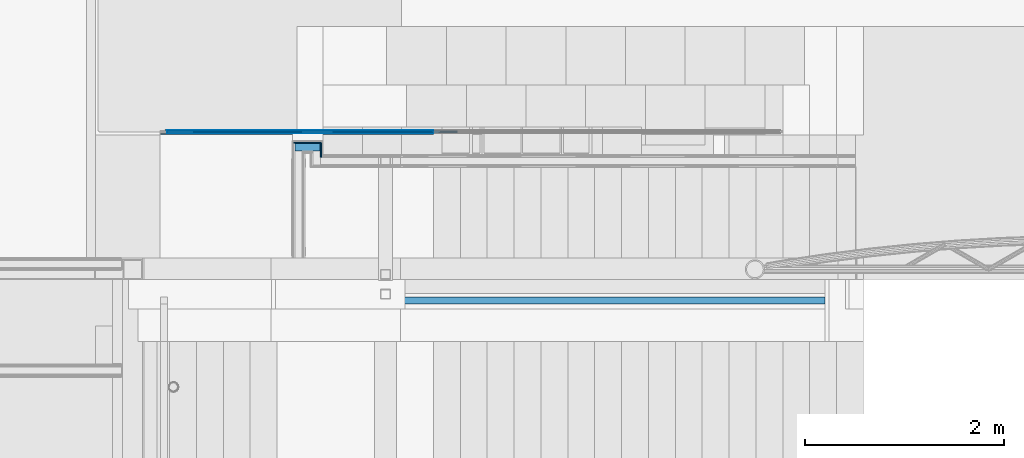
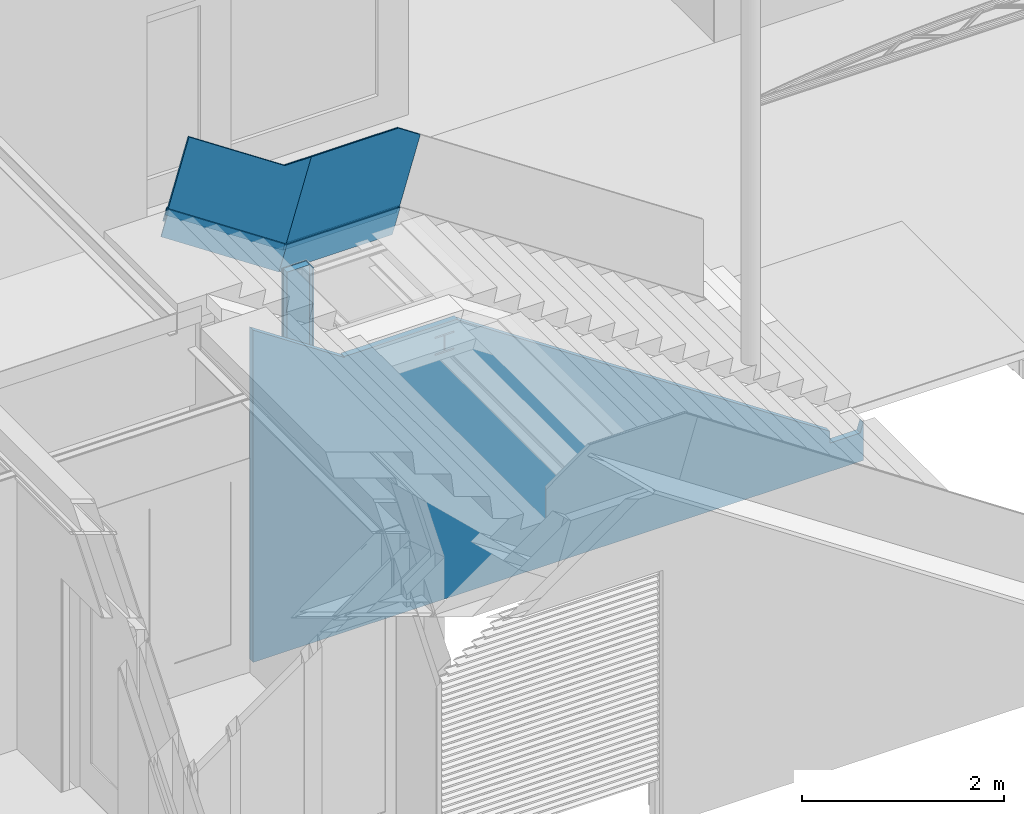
# One storey, part 50 of 165: 12 building element parts, 5 elements without a shape of their own.
"""IFC2X3 building model written with IfcOpenShell, lengths in millimetres."""

from ifc_helpers import new_model, entity, si_unit, converted_unit, derived_unit, money_unit, direction, frame, origin_with_axes, place, context, subcontext, project, spatial, faceted_brep, material, type_object, element, aggregate, save


model = new_model("IFC2X3")

# Units and contexts
model_context = context("Model", 3, precision=0.01, world=origin_with_axes(), true_north=direction((0.0, 1.0)))
body_context = subcontext(model_context, "Body", "Model", "MODEL_VIEW")
ifc_project = project(units=[si_unit("LENGTHUNIT", "METRE", prefix="MILLI"), si_unit("AREAUNIT", "SQUARE_METRE"), si_unit("VOLUMEUNIT", "CUBIC_METRE"), converted_unit("PLANEANGLEUNIT", "DEGREE", entity("IfcPlaneAngleMeasure", 0.0174532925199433), si_unit("PLANEANGLEUNIT", "RADIAN"), dimensions=[0, 0, 0, 0, 0, 0, 0]), money_unit("EUR"), converted_unit("TIMEUNIT", "Year", entity("IfcTimeMeasure", 31556926.0), si_unit("TIMEUNIT", "SECOND"), dimensions=[0, 0, 1, 0, 0, 0, 0]), si_unit("MASSUNIT", "GRAM", prefix="KILO"), si_unit("THERMODYNAMICTEMPERATUREUNIT", "DEGREE_CELSIUS"), si_unit("LUMINOUSINTENSITYUNIT", "LUMEN"), si_unit("ENERGYUNIT", "JOULE", prefix="MEGA"), derived_unit("THERMALCONDUCTANCEUNIT", [(si_unit("POWERUNIT", "WATT"), 1), (si_unit("LENGTHUNIT", "METRE"), -1), (si_unit("THERMODYNAMICTEMPERATUREUNIT", "KELVIN"), -1)]), derived_unit("SPECIFICHEATCAPACITYUNIT", [(si_unit("ENERGYUNIT", "JOULE"), 1), (si_unit("MASSUNIT", "GRAM", prefix="KILO"), -1), (si_unit("THERMODYNAMICTEMPERATUREUNIT", "KELVIN"), -1)]), derived_unit("MASSDENSITYUNIT", [(si_unit("MASSUNIT", "GRAM", prefix="KILO"), 1), (si_unit("VOLUMEUNIT", "CUBIC_METRE"), -1)])], contexts=[model_context])

# Site, building, storey
site_placement = place(None, origin_with_axes())
site = spatial("IfcSite", under=ifc_project, at=site_placement, Name="Site", CompositionType="ELEMENT")
building_placement = place(site_placement, origin_with_axes())
building = spatial("IfcBuilding", under=site, at=building_placement, Name="Naam gebouw", CompositionType="ELEMENT")
storey_placement = place(building_placement, origin_with_axes())
storey = spatial("IfcBuildingStorey", under=building, at=storey_placement, Name="Begane grond", CompositionType="ELEMENT", Elevation=0.0)

# Wall, building element part
wall_type = type_object("IfcWallType", Name="21 Buitenwand spouwmuur kalkzandsteen 464", PredefinedType="NOTDEFINED")
wall_placement = place(storey_placement, frame((11550.0, 4479.999999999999, -485.0), z_axis=(0.0, 0.0, 1.0), x_axis=(1.0, 0.0, 0.0)))
wall = element("IfcWall", 1, at=wall_placement, inside=storey, type_object=wall_type, Name="21_Wand-x")
ifc_material_1 = material(Name="Steen - Kalkzandsteen")
building_element_part_1_placement = place(wall_placement, origin_with_axes())
building_element_part_1 = element("IfcBuildingElementPart", 2, at=building_element_part_1_placement, material=ifc_material_1, Name="Steen - Kalkzandsteen", context=body_context, shape_type="Brep", body=[
    faceted_brep([(6855.907025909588, -179.9999999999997, 344.9999998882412), (7203.666809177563, -179.9999999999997, 344.9999998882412), (7239.999885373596, -179.9999999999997, 465.0000000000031), (7240.000087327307, -179.9999999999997, 0.0), (250.0, -179.9999999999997, 0.0), (250.0, -179.9999999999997, 4024.691548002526), (1292.472818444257, -179.9999999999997, 3329.709672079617), (1295.501476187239, -179.9999999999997, 3339.712649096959), (2592.472396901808, -179.9999999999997, 3339.712922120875), (2592.472396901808, -179.9999999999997, 3329.709769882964), (6855.907025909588, -179.9999999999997, 487.4200296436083), (2389.999999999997, -179.9999999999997, 35.0000000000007), (2395.999999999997, -179.9999999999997, 35.0000000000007), (2395.999999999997, -179.9999999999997, 2990.0), (2483.999999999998, -179.9999999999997, 2990.0), (2483.999999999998, -179.9999999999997, 35.0000000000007), (2489.999999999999, -179.9999999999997, 35.0000000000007), (2489.999999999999, -179.9999999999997, 2990.0), (2549.999999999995, -179.9999999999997, 2990.0), (2549.999999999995, -179.9999999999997, 3006.0), (2444.749999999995, -179.9999999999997, 3006.0), (2444.749999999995, -179.9999999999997, 3194.0), (2549.999999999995, -179.9999999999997, 3194.0), (2549.999999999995, -179.9999999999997, 3210.0), (2329.999999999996, -179.9999999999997, 3210.0), (2329.999999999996, -179.9999999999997, 3194.0), (2435.249999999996, -179.9999999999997, 3194.0), (2435.249999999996, -179.9999999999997, 3006.0), (2329.999999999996, -179.9999999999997, 3006.0), (2329.999999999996, -179.9999999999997, 2990.0), (2389.999999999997, -179.9999999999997, 2990.0), (6855.907025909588, -249.9999999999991, 344.9999998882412), (7203.666809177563, -249.9999999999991, 344.9999998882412), (7239.999885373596, -249.9999999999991, 465.0000000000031), (7240.000087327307, -249.9999999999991, 0.0), (250.0, -250.0, 0.0), (250.0, -250.0, 4024.691548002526), (1292.472818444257, -249.9999999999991, 3329.709672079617), (1295.501476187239, -249.9999999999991, 3339.712649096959), (2592.472396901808, -249.9999999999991, 3339.712922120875), (2592.472396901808, -249.9999999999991, 3329.709769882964), (6855.907025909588, -249.9999999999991, 487.4200296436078), (2389.999999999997, -200.000000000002, 35.0000000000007), (2489.999999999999, -200.000000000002, 35.0000000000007), (2483.999999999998, -194.0000000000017, 35.0000000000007), (2395.999999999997, -194.0000000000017, 35.0000000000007), (2395.999999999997, -194.0000000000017, 2990.0), (2483.999999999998, -194.0000000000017, 2990.0), (2489.999999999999, -200.000000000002, 2990.0), (2549.999999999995, -250.0, 2990.0), (2389.999999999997, -200.000000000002, 2990.0), (2329.999999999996, -250.0, 2990.0), (2549.999999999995, -250.0, 3006.0), (2444.749999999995, -250.0, 3006.0), (2444.749999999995, -250.0, 3194.0), (2549.999999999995, -250.0, 3194.0), (2549.999999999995, -250.0, 3210.0), (2329.999999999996, -250.0, 3210.0), (2329.999999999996, -250.0, 3194.0), (2435.249999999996, -250.0, 3194.0), (2435.249999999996, -250.0, 3006.0), (2329.999999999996, -250.0, 3006.0)], [[[0, 1, 2, 3, 4, 5, 6, 7, 8, 9, 10], [11, 12, 13, 14, 15, 16, 17, 18, 19, 20, 21, 22, 23, 24, 25, 26, 27, 28, 29, 30]], [[1, 0, 31, 32]], [[33, 2, 1, 32]], [[2, 33, 34, 3]], [[34, 35, 4, 3]], [[35, 36, 5, 4]], [[37, 6, 5, 36]], [[37, 38, 7, 6]], [[8, 7, 38, 39]], [[40, 9, 8, 39]], [[41, 10, 9, 40]], [[0, 10, 41, 31]], [[12, 11, 42, 43, 16, 15, 44, 45]], [[46, 13, 12, 45]], [[47, 14, 13, 46]], [[15, 14, 47, 44]], [[48, 17, 16, 43]], [[49, 18, 17, 48, 50, 30, 29, 51]], [[52, 19, 18, 49]], [[53, 20, 19, 52]], [[54, 21, 20, 53]], [[55, 22, 21, 54]], [[56, 23, 22, 55]], [[57, 24, 23, 56]], [[58, 25, 24, 57]], [[59, 26, 25, 58]], [[60, 27, 26, 59]], [[61, 28, 27, 60]], [[51, 29, 28, 61]], [[11, 30, 50, 42]], [[31, 41, 40, 39, 38, 37, 36, 35, 34, 33, 32], [49, 51, 61, 60, 59, 58, 57, 56, 55, 54, 53, 52]], [[50, 48, 43, 42]], [[47, 46, 45, 44]]]),
])
aggregate(wall, [building_element_part_1])

# Beam, building element parts
beam_type = type_object("IfcBeamType", Name="34 Glas balustrade binnen 50 x 1800", PredefinedType="BEAM")
beam_1_placement = place(storey_placement, frame((14470.00001687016, 5930.000274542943, 3060.0), z_axis=(0.0, 0.0, 1.0), x_axis=(1.788548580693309e-07, 0.999999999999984, 0.0)))
beam_1 = element("IfcBeam", 3, at=beam_1_placement, inside=storey, type_object=beam_type, Name="_Regenwaterafvoer-x", ObjectType="BEAM")
ifc_material_2 = material(Name="Glas")
building_element_part_2_placement = place(beam_1_placement, origin_with_axes())
building_element_part_2 = element("IfcBuildingElementPart", 4, at=building_element_part_2_placement, material=ifc_material_2, Name="Glas", context=body_context, shape_type="Brep", body=[
    faceted_brep([(39.99999585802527, 1011.16187693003, 953.9675754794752), (39.99999585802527, 13.93735067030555, 953.9680044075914), (39.99999585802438, -237.9871823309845, 786.0182834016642), (39.99999585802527, 3.990747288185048e-06, 1.665824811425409e-06), (39.99999585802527, 1300.000020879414, 1.665824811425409e-06), (38.25935055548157, 1011.40759643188, 953.156018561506), (38.25952891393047, 14.18308096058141, 953.1564114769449), (38.25958702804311, -237.7414600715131, 785.2067174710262), (21.74001410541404, -237.7414617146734, 785.206718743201), (19.99999211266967, -237.9871297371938, 786.0181046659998), (19.99999211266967, 2.467734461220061e-06, 1.665824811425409e-06), (19.99999211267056, 24.29169225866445, -80.22999964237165), (39.99999585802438, 24.29169378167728, -80.22999964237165), (34.19340399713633, -237.4115772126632, 784.1171873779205), (29.99980048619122, -237.3004914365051, 783.7502949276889), (25.80619701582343, -237.411578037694, 784.11718799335), (39.99999585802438, 1324.291710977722, -80.22999964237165), (19.99999211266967, 1324.291709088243, -80.22999964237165), (19.99999211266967, 1300.000018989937, 1.665824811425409e-06), (19.99999211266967, 1011.161894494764, 953.9675112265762), (21.73977763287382, 1011.40747315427, 953.1564205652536), (25.8059605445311, 1011.737356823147, 952.0668901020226), (29.99956401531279, 1011.848480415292, 951.6998751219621), (34.19316752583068, 1011.737434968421, 952.066634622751), (34.19334588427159, 14.51296350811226, 952.0668811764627), (19.99999211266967, 13.93741810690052, 953.9677704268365), (21.73995599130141, 14.18307800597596, 953.1564118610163), (29.99974237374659, 14.62404894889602, 951.6999884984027), (25.80613890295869, 14.51296200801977, 952.0668813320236)], [[[0, 1, 2, 3, 4]], [[1, 0, 5, 6]], [[7, 2, 1, 6]], [[8, 9, 10, 11, 12, 3, 2, 7, 13, 14, 15]], [[12, 16, 4, 3]], [[5, 0, 4, 16, 17, 18, 19, 20, 21, 22, 23]], [[5, 23, 24, 6]], [[13, 7, 6, 24]], [[25, 9, 8, 26]], [[25, 19, 18, 10, 9]], [[10, 18, 17, 11]], [[11, 17, 16, 12]], [[14, 13, 24, 27]], [[15, 14, 27, 28]], [[8, 15, 28, 26]], [[19, 25, 26, 20]], [[21, 20, 26, 28]], [[22, 21, 28, 27]], [[23, 22, 27, 24]]]),
])
building_element_part_3_placement = place(beam_1_placement, origin_with_axes())
building_element_part_3 = element("IfcBuildingElementPart", 5, at=building_element_part_3_placement, material=ifc_material_2, Name="Glas", context=body_context, shape_type="Brep", body=[
    faceted_brep([(39.99999940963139, 4.495118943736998e-06, 0.0), (39.99999940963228, 1300.000021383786, 0.0), (39.99999940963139, 1324.291710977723, -80.22999964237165), (39.99999940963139, 24.29169378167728, -80.22999964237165), (44.99800116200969, 4.875719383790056e-06, 0.0), (44.99800116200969, 1300.000021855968, 0.0), (44.9980011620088, 1324.291711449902, -80.22999964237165), (44.9980011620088, 24.2916941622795, -80.22999964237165)], [[[0, 1, 2, 3]], [[4, 5, 1, 0]], [[2, 1, 5, 6]], [[3, 2, 6, 7]], [[4, 0, 3, 7]], [[7, 6, 5, 4]]]),
])

beam_2_placement = place(storey_placement, frame((12900.00003584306, 5930.000555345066, 3239.99997959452), z_axis=(0.0, 0.0, 1.0), x_axis=(-2.916255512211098e-08, 0.9999999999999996, 0.0)))
beam_2 = element("IfcBeam", 6, at=beam_2_placement, inside=storey, type_object=beam_type, Name="_Regenwaterafvoer-x", ObjectType="BEAM")
building_element_part_4_placement = place(beam_2_placement, origin_with_axes())
building_element_part_4 = element("IfcBuildingElementPart", 7, at=building_element_part_4_placement, material=ifc_material_2, Name="Glas", context=body_context, shape_type="Brep", body=[
    faceted_brep([(39.99999585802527, 842.0128184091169, 1506.018320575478), (39.99999585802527, -256.0627375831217, 773.967543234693), (39.99999585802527, -558.8381288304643, 773.9676500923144), (39.99999585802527, -269.9999680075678, -179.9999794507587), (39.99999585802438, 1080.000013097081, 720.00002185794), (38.25926922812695, 842.2585852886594, 1505.20660781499), (38.25924318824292, -255.8169665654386, 773.1559196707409), (38.25923435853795, -558.5923925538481, 773.1560389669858), (21.73966143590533, -558.5925123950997, 773.1564409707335), (19.99999211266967, -558.8380742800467, 773.9674774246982), (19.99999211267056, -269.9999661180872, -179.9999781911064), (19.99999211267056, -245.7082760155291, -260.2299795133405), (39.99999585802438, -245.7082779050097, -260.2299807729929), (34.19305139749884, -558.2625531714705, 772.0666550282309), (29.99944791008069, -558.1515068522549, 771.6998955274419), (25.80584441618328, -558.2626295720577, 772.0669105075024), (39.99999585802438, 1104.291703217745, 639.7700205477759), (19.99999211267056, 1104.291703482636, 639.7700207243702), (19.99999211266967, 1080.000013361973, 720.0000220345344), (19.99999211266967, 842.0128871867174, 1506.018094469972), (21.73969630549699, 842.2585413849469, 1505.206753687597), (25.8058792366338, 842.5884246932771, 1504.11722293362), (29.99948271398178, 842.6995242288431, 1503.750285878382), (34.1930862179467, 842.5884525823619, 1504.117130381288), (34.1930602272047, -255.4870831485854, 772.0665801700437), (19.99999211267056, -256.0625852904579, 773.9676688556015), (21.73967026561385, -255.8169660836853, 773.1564436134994), (29.99945673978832, -255.3759968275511, 771.6998611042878), (25.8058532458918, -255.4870829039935, 772.0669131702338)], [[[0, 1, 2, 3, 4]], [[1, 0, 5, 6]], [[7, 2, 1, 6]], [[8, 9, 10, 11, 12, 3, 2, 7, 13, 14, 15]], [[12, 16, 4, 3]], [[5, 0, 4, 16, 17, 18, 19, 20, 21, 22, 23]], [[5, 23, 24, 6]], [[13, 7, 6, 24]], [[25, 9, 8, 26]], [[25, 19, 18, 10, 9]], [[10, 18, 17, 11]], [[11, 17, 16, 12]], [[14, 13, 24, 27]], [[15, 14, 27, 28]], [[8, 15, 28, 26]], [[19, 25, 26, 20]], [[21, 20, 26, 28]], [[22, 21, 28, 27]], [[23, 22, 27, 24]]]),
])
building_element_part_5_placement = place(beam_2_placement, origin_with_axes())
building_element_part_5 = element("IfcBuildingElementPart", 8, at=building_element_part_5_placement, material=ifc_material_2, Name="Glas", context=body_context, shape_type="Brep", body=[
    faceted_brep([(14.99999940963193, -269.9999651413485, -179.9999795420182), (14.99999940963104, 1080.000013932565, 720.0000204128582), (14.99999940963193, 1104.29170354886, 639.7700207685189), (14.99999940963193, -245.7082755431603, -260.2299791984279), (19.99999940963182, -269.9999656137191, -179.9999798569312), (19.99999940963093, 1080.000013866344, 720.0000203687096), (19.99999940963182, 1104.291703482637, 639.7700207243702), (19.99999940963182, -245.7082760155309, -260.2299795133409)], [[[0, 1, 2, 3]], [[4, 5, 1, 0]], [[2, 1, 5, 6]], [[3, 2, 6, 7]], [[4, 0, 3, 7]], [[7, 6, 5, 4]]]),
])
building_element_part_6_placement = place(beam_2_placement, origin_with_axes())
building_element_part_6 = element("IfcBuildingElementPart", 9, at=building_element_part_6_placement, material=ifc_material_2, Name="Glas", context=body_context, shape_type="Brep", body=[
    faceted_brep([(39.99999940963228, -269.9999675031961, -179.9999811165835), (39.99999940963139, 1080.000013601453, 720.0000201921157), (39.99999940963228, 1104.291703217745, 639.7700205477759), (39.99999940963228, -245.7082779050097, -260.2299807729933), (44.99800116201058, -269.9999679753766, -179.9999814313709), (44.99800116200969, 1080.000013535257, 720.0000201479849), (44.99800116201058, 1104.291703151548, 639.7700205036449), (44.99800116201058, -245.7082783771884, -260.2299810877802)], [[[0, 1, 2, 3]], [[4, 5, 1, 0]], [[2, 1, 5, 6]], [[3, 2, 6, 7]], [[4, 0, 3, 7]], [[7, 6, 5, 4]]]),
])
ifc_material_3 = material(Name="Metaal - Staal C")
building_element_part_7_placement = place(beam_2_placement, origin_with_axes())
building_element_part_7 = element("IfcBuildingElementPart", 10, at=building_element_part_7_placement, material=ifc_material_3, Name="Metaal - Staal C", context=body_context, shape_type="Brep", body=[
    faceted_brep([(54.99800116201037, -269.999968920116, -179.9999820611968), (54.99800116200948, 1080.000013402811, 720.0000200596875), (44.99800116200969, 1080.000013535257, 720.0000201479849), (44.99800116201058, -269.9999679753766, -179.9999814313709), (54.99800116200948, -224.5836227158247, -329.9999820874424), (54.99800116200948, 1125.416359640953, 570.0000200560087), (44.99800116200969, 1125.416359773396, 570.0000201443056), (44.99800116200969, 1117.846968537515, 595.0000207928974), (15.00000000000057, 1117.846968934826, 595.0000210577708), (15.00000000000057, 1170.832706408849, 420.0000204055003), (5.000000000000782, 1170.832706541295, 420.0000204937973), (4.999999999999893, 1080.000014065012, 720.0000205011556), (14.99999999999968, 1080.000013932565, 720.0000204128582), (14.99999940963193, 1104.29170354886, 639.7700207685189), (15.00000000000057, 1105.735943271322, 635.0000210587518), (44.99800116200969, 1105.735942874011, 635.000020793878), (44.99800116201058, 1104.291703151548, 639.7700205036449), (15.00000000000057, 1114.819212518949, 605.0000210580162), (44.99800116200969, 1114.819212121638, 605.0000207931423), (44.99800116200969, 1108.763699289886, 625.000020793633), (15.00000000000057, 1108.763699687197, 625.0000210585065), (44.99800116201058, -245.7082783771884, -260.2299810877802), (44.99800116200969, -244.2640386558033, -264.9999807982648), (15.00000000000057, -244.2640358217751, -264.9999789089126), (14.99999940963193, -245.7082755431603, -260.2299791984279), (15.00000000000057, -269.9999651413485, -179.9999795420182), (5.000000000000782, -269.9999641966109, -179.9999789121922), (4.999999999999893, -179.1672717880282, -479.9999789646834), (15.00000000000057, -179.1672727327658, -479.9999795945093), (15.00000000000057, -232.1530101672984, -304.999978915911), (44.99800116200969, -232.1530130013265, -304.9999808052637), (44.99800116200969, -224.5836217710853, -329.999981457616), (44.99800116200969, -241.2362822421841, -274.9999808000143), (44.99800116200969, -235.1807694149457, -294.9999808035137), (14.99999999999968, -235.1807665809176, -294.9999789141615), (15.00000000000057, -241.236279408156, -274.9999789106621)], [[[0, 1, 2, 3]], [[4, 5, 1, 0]], [[2, 1, 5, 6, 7, 8, 9, 10, 11, 12, 13, 14, 15, 16], [17, 18, 19, 20]], [[3, 2, 16, 21]], [[4, 0, 3, 21, 22, 23, 24, 25, 26, 27, 28, 29, 30, 31], [32, 33, 34, 35]], [[31, 6, 5, 4]], [[30, 7, 6, 31]], [[29, 8, 7, 30]], [[28, 9, 8, 29]], [[27, 10, 9, 28]], [[26, 11, 10, 27]], [[25, 12, 11, 26]], [[24, 13, 12, 25]], [[23, 14, 13, 24]], [[22, 15, 14, 23]], [[21, 16, 15, 22]], [[33, 18, 17, 34]], [[32, 19, 18, 33]], [[35, 20, 19, 32]], [[34, 17, 20, 35]]]),
])
aggregate(beam_2, [building_element_part_4, building_element_part_5, building_element_part_6, building_element_part_7])

# Building element part
building_element_part_8_placement = place(beam_1_placement, origin_with_axes())
building_element_part_8 = element("IfcBuildingElementPart", 11, at=building_element_part_8_placement, material=ifc_material_3, Name="Metaal - Staal C", context=body_context, shape_type="Brep", body=[
    faceted_brep([(54.99800116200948, 5.637225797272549e-06, 0.0), (54.99800116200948, 1300.000022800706, 0.0), (44.99800116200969, 1300.000021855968, 0.0), (44.99800116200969, 4.875719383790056e-06, 0.0), (54.99800116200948, 45.4163512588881, -149.9999999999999), (54.99800116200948, 1345.41636899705, -149.9999999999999), (44.99800116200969, 1345.416368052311, -149.9999999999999), (44.9980011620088, 1337.846976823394, -124.9999993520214), (15.00000000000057, 1337.846973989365, -124.9999993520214), (15.00000000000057, 1390.832711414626, -299.9999999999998), (4.999999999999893, 1390.832710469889, -299.9999999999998), (4.999999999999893, 1300.000018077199, 0.0), (14.99999999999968, 1300.000019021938, 0.0), (14.99999940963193, 1324.291708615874, -80.22999964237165), (14.99999999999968, 1325.735948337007, -84.9999993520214), (44.99800116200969, 1325.735951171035, -84.9999993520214), (44.9980011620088, 1324.291711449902, -80.22999964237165), (14.99999999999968, 1334.819217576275, -114.9999993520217), (44.99800116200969, 1334.819220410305, -114.9999993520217), (44.99800116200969, 1328.763707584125, -94.99999935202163), (15.00000000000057, 1328.763704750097, -94.99999935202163), (44.9980011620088, 24.2916941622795, -80.22999964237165), (44.99800116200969, 25.73593386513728, -84.9999993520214), (14.99999999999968, 25.73593158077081, -84.9999993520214), (14.99999940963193, 24.29169187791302, -80.22999964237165), (15.00000000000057, 2.591352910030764e-06, 0.0), (4.999999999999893, 1.829846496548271e-06, 0.0), (4.999999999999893, 90.8326930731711, -299.9999999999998), (15.00000000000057, 90.83269383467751, -299.9999999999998), (15.00000000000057, 37.84695707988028, -124.9999993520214), (44.9980011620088, 37.84695936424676, -124.9999993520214), (44.99800116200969, 45.41635049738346, -149.9999999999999), (44.9980011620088, 28.76369023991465, -94.99999935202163), (44.99800116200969, 34.81920298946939, -114.9999993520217), (14.99999999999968, 34.81920070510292, -114.9999993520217), (15.00000000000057, 28.76368795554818, -94.99999935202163)], [[[0, 1, 2, 3]], [[4, 5, 1, 0]], [[2, 1, 5, 6, 7, 8, 9, 10, 11, 12, 13, 14, 15, 16], [17, 18, 19, 20]], [[3, 2, 16, 21]], [[4, 0, 3, 21, 22, 23, 24, 25, 26, 27, 28, 29, 30, 31], [32, 33, 34, 35]], [[31, 6, 5, 4]], [[30, 7, 6, 31]], [[29, 8, 7, 30]], [[28, 9, 8, 29]], [[27, 10, 9, 28]], [[26, 11, 10, 27]], [[25, 12, 11, 26]], [[24, 13, 12, 25]], [[23, 14, 13, 24]], [[22, 15, 14, 23]], [[21, 16, 15, 22]], [[33, 18, 17, 34]], [[32, 19, 18, 33]], [[35, 20, 19, 32]], [[34, 17, 20, 35]]]),
])

building_element_part_9_placement = place(beam_1_placement, origin_with_axes())
building_element_part_9 = element("IfcBuildingElementPart", 12, at=building_element_part_9_placement, material=ifc_material_2, Name="Glas", context=body_context, shape_type="Brep", body=[
    faceted_brep([(14.99999940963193, 2.591352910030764e-06, 0.0), (14.99999940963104, 1300.000019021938, 0.0), (14.99999940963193, 1324.291708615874, -80.22999964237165), (14.99999940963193, 24.29169187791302, -80.22999964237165), (19.99999940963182, 2.972106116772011e-06, 0.0), (19.99999940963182, 1300.000019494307, 0.0), (19.99999940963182, 1324.291709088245, -80.22999964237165), (19.99999940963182, 24.29169225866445, -80.22999964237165)], [[[0, 1, 2, 3]], [[4, 5, 1, 0]], [[2, 1, 5, 6]], [[3, 2, 6, 7]], [[4, 0, 3, 7]], [[7, 6, 5, 4]]]),
])

aggregate(beam_1, [building_element_part_2, building_element_part_3, building_element_part_8, building_element_part_9])

# Proxy, building element parts
building_element_proxy_type = type_object("IfcBuildingElementProxyType", Name="22 Metal stud 125 oregon pine 125", PredefinedType="NOTDEFINED")
proxy_1_placement = place(storey_placement, frame((13053.57016167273, 5869.999789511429, -100.0), z_axis=(0.0, 0.0, 1.0), x_axis=(0.999999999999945, 3.31845037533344e-07, 0.0)))
proxy_1 = element("IfcBuildingElementProxy", 13, at=proxy_1_placement, inside=storey, type_object=building_element_proxy_type, Name="_Wand-x")
ifc_material_4 = material(Name="Gipsplaat")
building_element_part_10_placement = place(proxy_1_placement, origin_with_axes())
building_element_part_10 = element("IfcBuildingElementPart", 14, at=building_element_part_10_placement, material=ifc_material_4, Name="Gipsplaat", context=body_context, shape_type="Brep", body=[
    faceted_brep([(12.49999585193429, -12.50000414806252, 2960.0), (292.4999917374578, -12.50009706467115, 2960.0), (292.4999917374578, -12.50009706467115, 0.0), (12.49999585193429, -12.50000414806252, 0.0), (292.4999875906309, -25.00009706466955, 2960.0), (12.49999170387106, -25.00000414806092, 2960.0), (292.4999875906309, -25.00009706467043, 0.0), (12.49999170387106, -25.00000414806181, 0.0)], [[[0, 1, 2, 3]], [[4, 1, 0, 5]], [[1, 4, 6, 2]], [[2, 6, 7, 3]], [[5, 0, 3, 7]], [[4, 5, 7, 6]]]),
])
ifc_material_5 = material(Name="ALG - LICHTE SCHEIDINGSWAND")
building_element_part_11_placement = place(proxy_1_placement, origin_with_axes())
building_element_part_11 = element("IfcBuildingElementPart", 15, at=building_element_part_11_placement, material=ifc_material_5, Name="ALG - LICHTE SCHEIDINGSWAND", context=body_context, shape_type="Brep", body=[
    faceted_brep([(24.99999170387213, -25.00000829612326, 2960.0), (279.9999875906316, -25.00009291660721, 2960.0), (279.9999875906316, -25.0000929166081, 0.0), (24.99999170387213, -25.00000829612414, 0.0), (279.9999627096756, -100.0000929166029, 2960.0), (24.99996681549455, -100.000008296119, 2960.0), (279.9999627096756, -100.0000929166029, 0.0), (24.99996681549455, -100.000008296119, 0.0)], [[[0, 1, 2, 3]], [[4, 1, 0, 5]], [[1, 4, 6, 2]], [[2, 6, 7, 3]], [[5, 0, 3, 7]], [[4, 5, 7, 6]]]),
])
aggregate(proxy_1, [building_element_part_10, building_element_part_11])

# Proxy, building element part
proxy_2_placement = place(storey_placement, frame((13358.57015755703, 5869.999890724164, -100.0), z_axis=(0.0, 0.0, 1.0), x_axis=(0.0, -1.0, 0.0)))
proxy_2 = element("IfcBuildingElementProxy", 16, at=proxy_2_placement, inside=storey, type_object=building_element_proxy_type, Name="_Wand-x")
building_element_part_12_placement = place(proxy_2_placement, origin_with_axes())
building_element_part_12 = element("IfcBuildingElementPart", 17, at=building_element_part_12_placement, material=ifc_material_4, Name="Gipsplaat", context=body_context, shape_type="Brep", body=[
    faceted_brep([(25.00000829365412, -25.00000000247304, 2960.0), (25.00000414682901, -12.50000000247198, 2960.0), (25.00000414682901, -12.50000000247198, 0.0), (25.00000829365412, -25.00000000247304, 0.0), (164.9998865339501, -12.50000001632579, 2960.0), (164.9998865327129, -25.00000001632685, 2960.0), (164.9998865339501, -12.50000001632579, 0.0), (164.9998865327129, -25.00000001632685, 0.0)], [[[0, 1, 2, 3]], [[4, 1, 0, 5]], [[1, 4, 6, 2]], [[6, 7, 3, 2]], [[5, 0, 3, 7]], [[4, 5, 7, 6]]]),
])
aggregate(proxy_2, [building_element_part_12])

save(model, "model.ifc")
